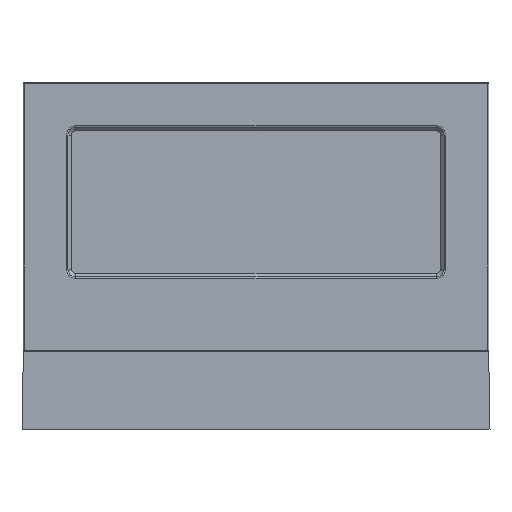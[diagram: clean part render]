
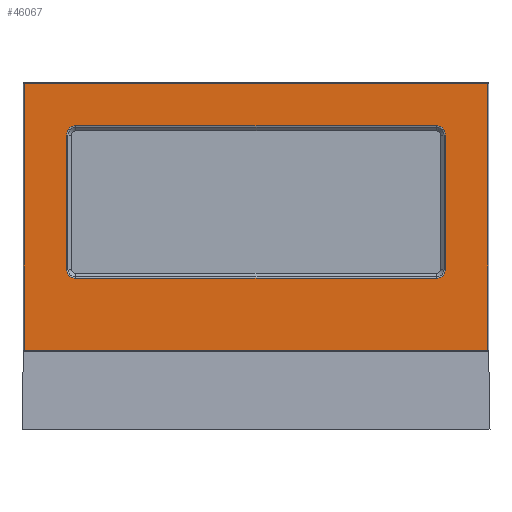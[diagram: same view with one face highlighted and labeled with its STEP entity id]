
A CAD part, top view. The second image highlights one B-rep face of the part: STEP entity #46067.
In plain terms, the highlighted planar face has unit normal (0, 0, 1).
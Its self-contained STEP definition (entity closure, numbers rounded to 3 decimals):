
#42308=DIRECTION('',(-1.,0.,0.));
#42309=VECTOR('',#42308,219.166);
#42310=CARTESIAN_POINT('',(109.583,63.083,0.));
#42311=LINE('',#42310,#42309);
#42339=DIRECTION('',(0.,1.,0.));
#42340=VECTOR('',#42339,126.166);
#42341=CARTESIAN_POINT('',(109.583,-63.083,0.));
#42342=LINE('',#42341,#42340);
#42370=DIRECTION('',(1.,0.,0.));
#42371=VECTOR('',#42370,219.166);
#42372=CARTESIAN_POINT('',(-109.583,-63.083,0.));
#42373=LINE('',#42372,#42371);
#42401=DIRECTION('',(0.,-1.,0.));
#42402=VECTOR('',#42401,126.166);
#42403=CARTESIAN_POINT('',(-109.583,63.083,0.));
#42404=LINE('',#42403,#42402);
#42413=CARTESIAN_POINT('',(85.2,-24.7,0.));
#42414=DIRECTION('',(0.,0.,1.));
#42415=DIRECTION('',(0.,-1.,0.));
#42416=AXIS2_PLACEMENT_3D('',#42413,#42414,#42415);
#42418=CARTESIAN_POINT('',(85.2,38.7,0.));
#42419=DIRECTION('',(0.,0.,1.));
#42420=DIRECTION('',(1.,0.,0.));
#42421=AXIS2_PLACEMENT_3D('',#42418,#42419,#42420);
#42423=CARTESIAN_POINT('',(-85.2,38.7,0.));
#42424=DIRECTION('',(0.,0.,1.));
#42425=DIRECTION('',(0.,1.,0.));
#42426=AXIS2_PLACEMENT_3D('',#42423,#42424,#42425);
#42428=CARTESIAN_POINT('',(-85.2,-24.7,0.));
#42429=DIRECTION('',(0.,0.,1.));
#42430=DIRECTION('',(-1.,0.,0.));
#42431=AXIS2_PLACEMENT_3D('',#42428,#42429,#42430);
#42448=DIRECTION('',(-1.,0.,0.));
#42449=VECTOR('',#42448,170.4);
#42450=CARTESIAN_POINT('',(85.2,-29.114,0.));
#42451=LINE('',#42450,#42449);
#42471=DIRECTION('',(0.,1.,0.));
#42472=VECTOR('',#42471,63.4);
#42473=CARTESIAN_POINT('',(-89.614,-24.7,0.));
#42474=LINE('',#42473,#42472);
#42494=DIRECTION('',(1.,0.,0.));
#42495=VECTOR('',#42494,170.4);
#42496=CARTESIAN_POINT('',(-85.2,43.114,0.));
#42497=LINE('',#42496,#42495);
#42517=DIRECTION('',(0.,-1.,0.));
#42518=VECTOR('',#42517,63.4);
#42519=CARTESIAN_POINT('',(89.614,38.7,0.));
#42520=LINE('',#42519,#42518);
#44992=CARTESIAN_POINT('',(-109.583,63.083,0.));
#44993=VERTEX_POINT('',#44992);
#44996=CARTESIAN_POINT('',(109.583,63.083,0.));
#44997=VERTEX_POINT('',#44996);
#45002=CARTESIAN_POINT('',(109.583,-63.083,0.));
#45003=VERTEX_POINT('',#45002);
#45008=CARTESIAN_POINT('',(-109.583,-63.083,0.));
#45009=VERTEX_POINT('',#45008);
#45012=CARTESIAN_POINT('',(85.2,-29.114,0.));
#45013=CARTESIAN_POINT('',(89.614,-24.7,0.));
#45014=VERTEX_POINT('',#45012);
#45015=VERTEX_POINT('',#45013);
#45016=CARTESIAN_POINT('',(89.614,38.7,0.));
#45017=VERTEX_POINT('',#45016);
#45018=CARTESIAN_POINT('',(85.2,43.114,0.));
#45019=VERTEX_POINT('',#45018);
#45020=CARTESIAN_POINT('',(-85.2,43.114,0.));
#45021=VERTEX_POINT('',#45020);
#45022=CARTESIAN_POINT('',(-89.614,38.7,0.));
#45023=VERTEX_POINT('',#45022);
#45024=CARTESIAN_POINT('',(-89.614,-24.7,0.));
#45025=VERTEX_POINT('',#45024);
#45026=CARTESIAN_POINT('',(-85.2,-29.114,0.));
#45027=VERTEX_POINT('',#45026);
#46038=CARTESIAN_POINT('',(0.,0.,0.));
#46039=DIRECTION('',(0.,0.,1.));
#46040=DIRECTION('',(1.,0.,0.));
#46041=AXIS2_PLACEMENT_3D('',#46038,#46039,#46040);
#46042=PLANE('',#46041);
#46043=ORIENTED_EDGE('',*,*,#45913,.F.);
#46044=ORIENTED_EDGE('',*,*,#45967,.F.);
#46045=ORIENTED_EDGE('',*,*,#46020,.F.);
#46046=ORIENTED_EDGE('',*,*,#45859,.F.);
#46047=EDGE_LOOP('',(#46043,#46044,#46045,#46046));
#46048=FACE_OUTER_BOUND('',#46047,.F.);
#46050=ORIENTED_EDGE('',*,*,#46049,.T.);
#46052=ORIENTED_EDGE('',*,*,#46051,.F.);
#46054=ORIENTED_EDGE('',*,*,#46053,.T.);
#46056=ORIENTED_EDGE('',*,*,#46055,.F.);
#46058=ORIENTED_EDGE('',*,*,#46057,.T.);
#46060=ORIENTED_EDGE('',*,*,#46059,.F.);
#46062=ORIENTED_EDGE('',*,*,#46061,.T.);
#46064=ORIENTED_EDGE('',*,*,#46063,.F.);
#46065=EDGE_LOOP('',(#46050,#46052,#46054,#46056,#46058,#46060,#46062,#46064));
#46066=FACE_BOUND('',#46065,.F.);
#46067=ADVANCED_FACE('',(#46048,#46066),#46042,.T.);
#42417=CIRCLE('',#42416,4.414);
#42422=CIRCLE('',#42421,4.414);
#42427=CIRCLE('',#42426,4.414);
#42432=CIRCLE('',#42431,4.414);
#45859=EDGE_CURVE('',#44997,#44993,#42311,.T.);
#45913=EDGE_CURVE('',#45003,#44997,#42342,.T.);
#45967=EDGE_CURVE('',#45009,#45003,#42373,.T.);
#46020=EDGE_CURVE('',#44993,#45009,#42404,.T.);
#46049=EDGE_CURVE('',#45014,#45015,#42417,.T.);
#46051=EDGE_CURVE('',#45017,#45015,#42520,.T.);
#46053=EDGE_CURVE('',#45017,#45019,#42422,.T.);
#46055=EDGE_CURVE('',#45021,#45019,#42497,.T.);
#46057=EDGE_CURVE('',#45021,#45023,#42427,.T.);
#46059=EDGE_CURVE('',#45025,#45023,#42474,.T.);
#46061=EDGE_CURVE('',#45025,#45027,#42432,.T.);
#46063=EDGE_CURVE('',#45014,#45027,#42451,.T.);
